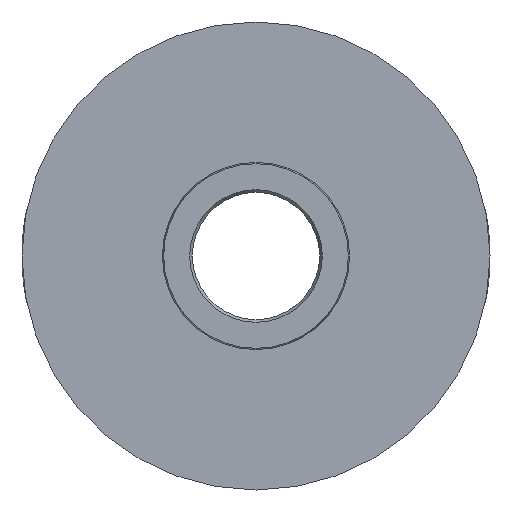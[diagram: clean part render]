
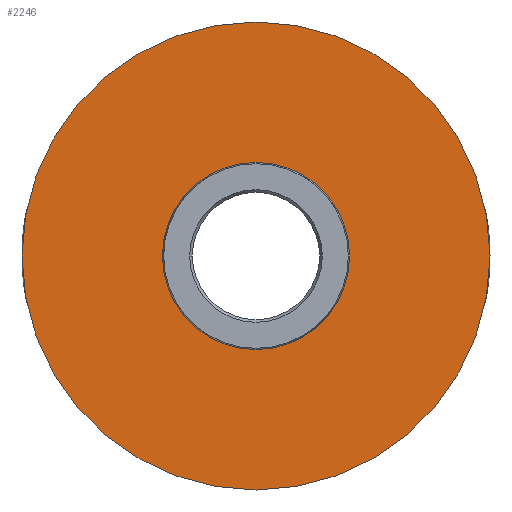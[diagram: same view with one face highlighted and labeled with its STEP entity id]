
A CAD part, front view. The second image highlights one B-rep face of the part: STEP entity #2246.
In plain terms, the highlighted planar face has unit normal (0, -1, 0).
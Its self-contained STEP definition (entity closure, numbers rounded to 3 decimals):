
#143 = CARTESIAN_POINT ( 'NONE',  ( 0., 0., 20. ) ) ;
#201 = CARTESIAN_POINT ( 'NONE',  ( 0., 0., 50. ) ) ;
#205 = DIRECTION ( 'NONE',  ( 0., 1., 0. ) ) ;
#255 = CARTESIAN_POINT ( 'NONE',  ( 0., 0., 0. ) ) ;
#281 = ORIENTED_EDGE ( 'NONE', *, *, #786, .F. ) ;
#298 = VERTEX_POINT ( 'NONE', #201 ) ;
#390 = AXIS2_PLACEMENT_3D ( 'NONE', #1425, #1241, #829 ) ;
#449 = DIRECTION ( 'NONE',  ( 0., 0., 1. ) ) ;
#456 = ORIENTED_EDGE ( 'NONE', *, *, #2177, .T. ) ;
#476 = EDGE_LOOP ( 'NONE', ( #1837, #456 ) ) ;
#564 = AXIS2_PLACEMENT_3D ( 'NONE', #1895, #205, #1547 ) ;
#730 = EDGE_LOOP ( 'NONE', ( #2118, #281 ) ) ;
#767 = FACE_BOUND ( 'NONE', #476, .T. ) ;
#783 = VERTEX_POINT ( 'NONE', #1036 ) ;
#786 = EDGE_CURVE ( 'NONE', #1568, #298, #2328, .T. ) ;
#829 = DIRECTION ( 'NONE',  ( 0., 0., 1. ) ) ;
#973 = DIRECTION ( 'NONE',  ( 0., 1., 0. ) ) ;
#979 = PLANE ( 'NONE',  #564 ) ;
#1001 = EDGE_CURVE ( 'NONE', #2012, #783, #2350, .T. ) ;
#1036 = CARTESIAN_POINT ( 'NONE',  ( 0., 0., -20. ) ) ;
#1241 = DIRECTION ( 'NONE',  ( 0., 1., 0. ) ) ;
#1258 = CARTESIAN_POINT ( 'NONE',  ( 0., 0., 0. ) ) ;
#1350 = AXIS2_PLACEMENT_3D ( 'NONE', #1258, #1903, #1983 ) ;
#1360 = EDGE_CURVE ( 'NONE', #298, #1568, #2326, .T. ) ;
#1425 = CARTESIAN_POINT ( 'NONE',  ( 0., 0., 0. ) ) ;
#1547 = DIRECTION ( 'NONE',  ( 0., 0., 1. ) ) ;
#1568 = VERTEX_POINT ( 'NONE', #2030 ) ;
#1591 = DIRECTION ( 'NONE',  ( 0., 1., 0. ) ) ;
#1760 = CIRCLE ( 'NONE', #2236, 20. ) ;
#1837 = ORIENTED_EDGE ( 'NONE', *, *, #1001, .T. ) ;
#1895 = CARTESIAN_POINT ( 'NONE',  ( 20., 0., 0. ) ) ;
#1903 = DIRECTION ( 'NONE',  ( 0., 1., 0. ) ) ;
#1983 = DIRECTION ( 'NONE',  ( 0., 0., 1. ) ) ;
#2012 = VERTEX_POINT ( 'NONE', #143 ) ;
#2030 = CARTESIAN_POINT ( 'NONE',  ( 0., 0., -50. ) ) ;
#2073 = CARTESIAN_POINT ( 'NONE',  ( 0., 0., 0. ) ) ;
#2118 = ORIENTED_EDGE ( 'NONE', *, *, #1360, .F. ) ;
#2125 = AXIS2_PLACEMENT_3D ( 'NONE', #255, #1591, #449 ) ;
#2177 = EDGE_CURVE ( 'NONE', #783, #2012, #1760, .T. ) ;
#2236 = AXIS2_PLACEMENT_3D ( 'NONE', #2073, #973, #2258 ) ;
#2246 = ADVANCED_FACE ( 'NONE', ( #2304, #767 ), #979, .F. ) ;
#2258 = DIRECTION ( 'NONE',  ( 0., 0., 1. ) ) ;
#2304 = FACE_OUTER_BOUND ( 'NONE', #730, .T. ) ;
#2326 = CIRCLE ( 'NONE', #390, 50. ) ;
#2328 = CIRCLE ( 'NONE', #2125, 50. ) ;
#2350 = CIRCLE ( 'NONE', #1350, 20. ) ;
